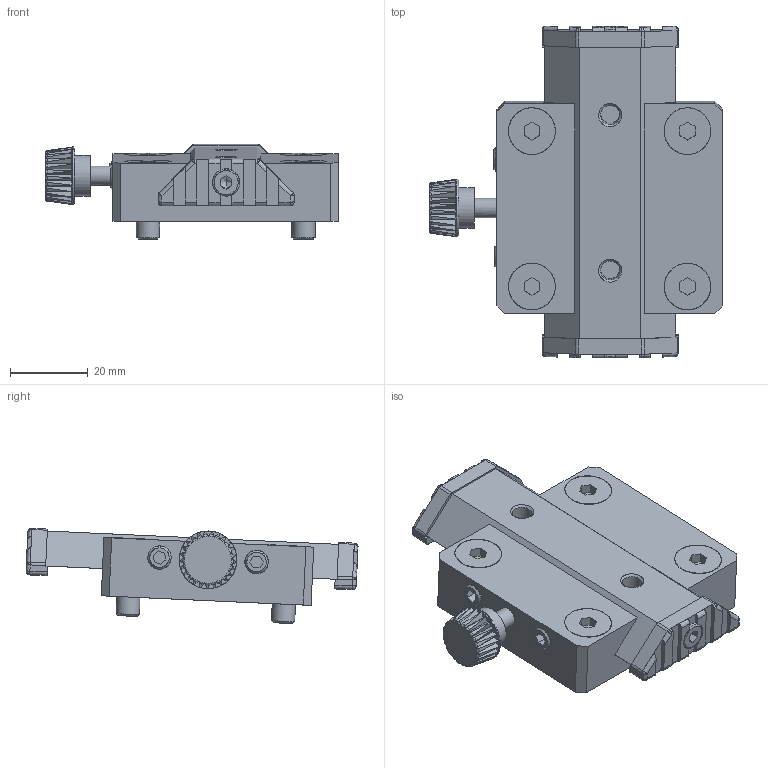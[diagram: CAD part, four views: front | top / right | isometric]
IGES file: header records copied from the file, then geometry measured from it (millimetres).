
Global section: file name: Y:\_LCPD Drawings\13.1 Lightweight Models\9936\LM-9936-0148 PARALLELISM STAGE\LM-9936-0148 PARALLELISM STAGE.igs; native system: NX V1926; preprocessor: SIEMENS PLM Software NX 1942; date: 20210309.152034; units: millimetre
Bounding box: 75.34 x 85.37 x 24.49 mm (x, y, z)
Surface area: 18074.9 mm2 (no closed solid volume)
Topology: 0 solids, 0 shells, 370 faces, 2161 edges, 2134 vertices
Faces by surface type: bspline 370
